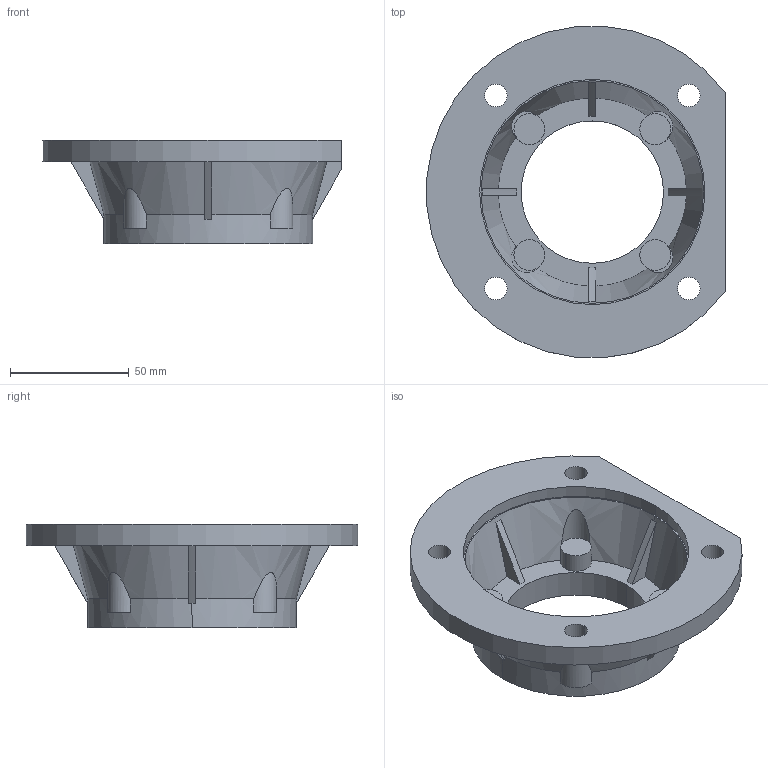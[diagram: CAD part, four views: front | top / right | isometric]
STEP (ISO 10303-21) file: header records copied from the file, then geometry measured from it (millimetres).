
FILE_DESCRIPTION(/* description */ (''),/* implementation_level */ '2;1');
FILE_NAME(/* name */ '3_FLAGIA (CAMPANA) LATERALE FC NMRV040',/* time_stamp */ '2025-10-09T14:20:28+02:00',/* author */ (''),/* organization */ (''),/* preprocessor_version */ 'ST-DEVELOPER v19.2',/* originating_system */ 'Rhino 8.23',/* authorisation */ '');
FILE_SCHEMA (('CONFIG_CONTROL_DESIGN'));
Length unit declared in the file: millimetre
Products named in the file (2): Document; FU 40FC
Bounding box: 125.74 x 139.7 x 43.5 mm (x, y, z)
Volume: 136138 mm3; surface area: 49067.1 mm2
Topology: 1 solids, 1 shells, 75 faces, 201 edges, 134 vertices
Faces by surface type: cylinder 31, plane 30, bspline 14
Entity records: 3699 total; most frequent: CARTESIAN_POINT 1148, ORIENTED_EDGE 402, DIRECTION 263, EDGE_CURVE 201, AXIS2_PLACEMENT_3D 162, VERTEX_POINT 134, B_SPLINE_CURVE_WITH_KNOTS 104, TRIMMED_CURVE 97
